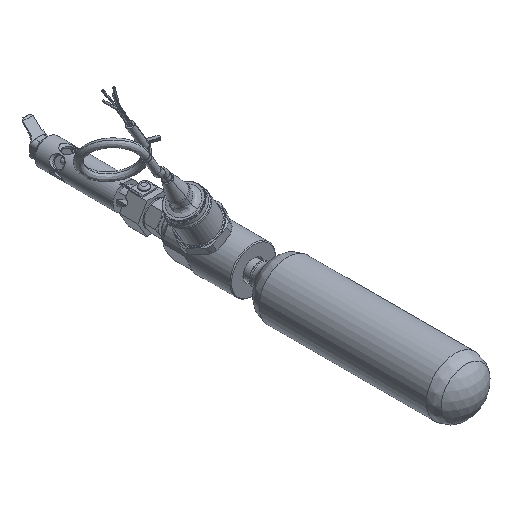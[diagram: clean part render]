
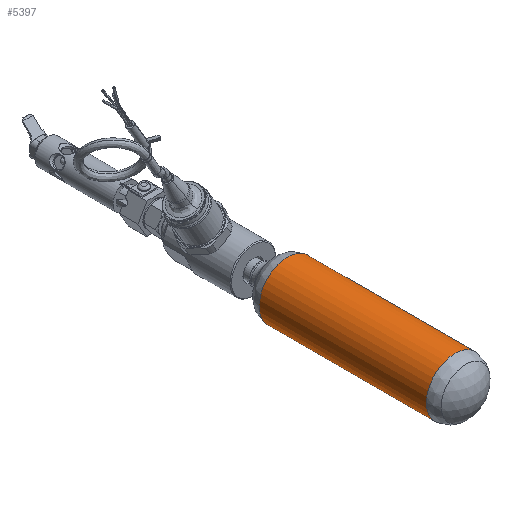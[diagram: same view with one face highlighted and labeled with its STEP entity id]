
A CAD part, isometric view. The second image highlights one B-rep face of the part: STEP entity #5397.
In plain terms, the highlighted cylindrical face has radius 17.5 mm (diameter 35 mm), a full revolution.
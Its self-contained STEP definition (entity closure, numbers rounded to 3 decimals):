
#522=CYLINDRICAL_SURFACE('',#5750,17.5);
#705=CIRCLE('',#5747,17.5);
#706=CIRCLE('',#5748,17.5);
#708=CIRCLE('',#5751,17.5);
#709=CIRCLE('',#5752,17.5);
#996=FACE_OUTER_BOUND('',#1310,.T.);
#1310=EDGE_LOOP('',(#4515,#4516,#4517,#4518,#4519,#4520));
#1587=LINE('',#17386,#1848);
#1848=VECTOR('',#6642,17.5);
#2321=VERTEX_POINT('',#17378);
#2322=VERTEX_POINT('',#17380);
#2323=VERTEX_POINT('',#17385);
#2324=VERTEX_POINT('',#17387);
#3068=EDGE_CURVE('',#2321,#2322,#705,.T.);
#3069=EDGE_CURVE('',#2322,#2321,#706,.T.);
#3071=EDGE_CURVE('',#2322,#2323,#1587,.T.);
#3072=EDGE_CURVE('',#2323,#2324,#708,.T.);
#3073=EDGE_CURVE('',#2324,#2323,#709,.T.);
#4515=ORIENTED_EDGE('',*,*,#3068,.F.);
#4516=ORIENTED_EDGE('',*,*,#3069,.F.);
#4517=ORIENTED_EDGE('',*,*,#3071,.T.);
#4518=ORIENTED_EDGE('',*,*,#3072,.T.);
#4519=ORIENTED_EDGE('',*,*,#3073,.T.);
#4520=ORIENTED_EDGE('',*,*,#3071,.F.);
#5397=ADVANCED_FACE('',(#996),#522,.T.);
#5747=AXIS2_PLACEMENT_3D('',#17381,#6634,#6635);
#5748=AXIS2_PLACEMENT_3D('',#17382,#6636,#6637);
#5750=AXIS2_PLACEMENT_3D('',#17384,#6640,#6641);
#5751=AXIS2_PLACEMENT_3D('',#17388,#6643,#6644);
#5752=AXIS2_PLACEMENT_3D('',#17389,#6645,#6646);
#6634=DIRECTION('center_axis',(0.,1.,0.));
#6635=DIRECTION('ref_axis',(1.,0.,0.));
#6636=DIRECTION('center_axis',(0.,1.,0.));
#6637=DIRECTION('ref_axis',(1.,0.,0.));
#6640=DIRECTION('center_axis',(0.,1.,0.));
#6641=DIRECTION('ref_axis',(-1.,0.,0.));
#6642=DIRECTION('',(0.,-1.,0.));
#6643=DIRECTION('center_axis',(0.,1.,0.));
#6644=DIRECTION('ref_axis',(1.,0.,0.));
#6645=DIRECTION('center_axis',(0.,1.,0.));
#6646=DIRECTION('ref_axis',(1.,0.,0.));
#17378=CARTESIAN_POINT('',(0.,116.06,-17.5));
#17380=CARTESIAN_POINT('',(17.5,116.06,0.));
#17381=CARTESIAN_POINT('Origin',(0.,116.06,0.));
#17382=CARTESIAN_POINT('Origin',(0.,116.06,0.));
#17384=CARTESIAN_POINT('Origin',(0.,64.723,0.));
#17385=CARTESIAN_POINT('',(17.5,13.385,0.));
#17386=CARTESIAN_POINT('',(17.5,64.723,0.));
#17387=CARTESIAN_POINT('',(0.,13.385,-17.5));
#17388=CARTESIAN_POINT('Origin',(0.,13.385,0.));
#17389=CARTESIAN_POINT('Origin',(0.,13.385,0.));
